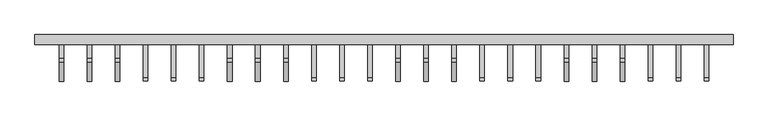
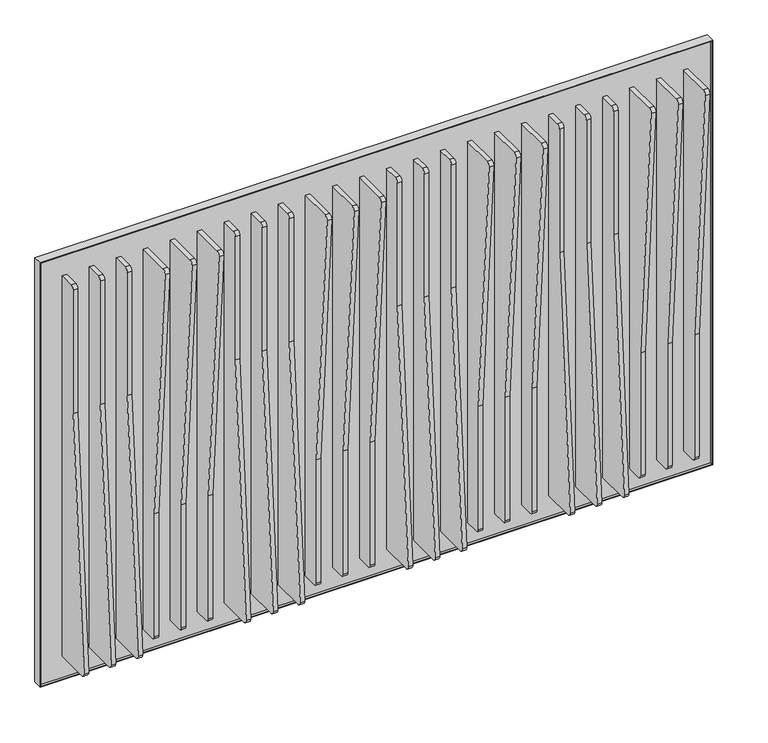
"""IFC4 building model written with IfcOpenShell, lengths in millimetres: proxy geometry, Frames_Plungle 1.3dm."""

import ifcopenshell
import ifcopenshell.guid

model = None  # the IFC model being written
_history = None  # IfcOwnerHistory: only IFC2X3 demands one
_inside = {}  # id of a spatial element -> (the spatial element, [elements in it])
_under = {}  # id of a project, library or spatial element -> (it, [spatial elements below it])
_declared = {}  # id of a project -> (the project, [libraries it declares])
_typed = {}  # id of a type object -> (the type object, [elements of that type])
_made_of = {}  # id of a material, layer set ... -> (it, [elements and type objects made of it])


def new_model(schema):
    """Start an empty IFC model of exactly this schema.

    Asked for "IFC4X3", IfcOpenShell would pick the latest addendum, in which some entities
    have other attributes; the version numbers below select the first issue.
    IFC2X3 requires an IfcOwnerHistory on every rooted entity: one is made here for all.
    """
    global model, _history
    if schema == "IFC4X3":
        model = ifcopenshell.file(schema_version=(4, 3, 0, 0))
    else:
        model = ifcopenshell.file(schema=schema)
    _inside.clear()
    _under.clear()
    _declared.clear()
    _typed.clear()
    _made_of.clear()
    _history = None
    if model.schema == "IFC2X3":
        org = make("IfcOrganization", Name="unknown")
        user = make(
            "IfcPersonAndOrganization",
            ThePerson=make("IfcPerson", FamilyName="unknown"),
            TheOrganization=org,
        )
        app = make(
            "IfcApplication",
            ApplicationDeveloper=org,
            Version="unknown",
            ApplicationFullName="unknown",
            ApplicationIdentifier="unknown",
        )
        _history = make(
            "IfcOwnerHistory",
            OwningUser=user,
            OwningApplication=app,
            ChangeAction="ADDED",
            CreationDate=0,
        )
    return model


def make(cls, **values):
    """One entity of the class cls with the attributes given. An attribute that is None is left unset."""
    return model.create_entity(
        cls, **{name: value for name, value in values.items() if value is not None}
    )


def rooted(cls, **values):
    """An entity with a GlobalId (a new one), such as an element, a storey or a relation."""
    return make(cls, GlobalId=ifcopenshell.guid.new(), OwnerHistory=_history, **values)


def si_unit(unit_type, name, prefix=None):
    """IfcSIUnit, for example si_unit("LENGTHUNIT", "METRE", prefix="MILLI")."""
    return make("IfcSIUnit", UnitType=unit_type, Prefix=prefix, Name=name)


def assignment(units):
    """IfcUnitAssignment: the units of a project."""
    return None if units is None else make("IfcUnitAssignment", Units=units)


def point(xyz):
    """IfcCartesianPoint."""
    return None if xyz is None else make("IfcCartesianPoint", Coordinates=xyz)


def direction(xyz):
    """IfcDirection."""
    return None if xyz is None else make("IfcDirection", DirectionRatios=xyz)


def frame(location, z_axis=None, x_axis=None):
    """IfcAxis2Placement3D, a coordinate frame: its origin and axes. An axis left out is left unset."""
    return make(
        "IfcAxis2Placement3D",
        Location=point(location),
        Axis=direction(z_axis),
        RefDirection=direction(x_axis),
    )


def frame_2d(location, x_axis=None):
    """IfcAxis2Placement2D, a coordinate frame in the plane: its origin and x axis."""
    return make(
        "IfcAxis2Placement2D", Location=point(location), RefDirection=direction(x_axis)
    )


def origin():
    """The frame at (0, 0, 0) with its axes left unset."""
    return frame((0.0, 0.0, 0.0))


def place(relative_to, where):
    """IfcLocalPlacement: puts the frame where relative to a parent placement (None: the world)."""
    return make(
        "IfcLocalPlacement", PlacementRelTo=relative_to, RelativePlacement=where
    )


def context(
    kind, dimensions, precision=None, world=None, true_north=None, identifier=None
):
    """IfcGeometricRepresentationContext, for example the 3D "Model" context."""
    return make(
        "IfcGeometricRepresentationContext",
        ContextIdentifier=identifier,
        ContextType=kind,
        CoordinateSpaceDimension=dimensions,
        Precision=precision,
        WorldCoordinateSystem=world,
        TrueNorth=true_north,
    )


def project(units=None, contexts=None):
    """IfcProject with its units and contexts."""
    return rooted(
        "IfcProject",
        Name="project",
        RepresentationContexts=contexts,
        UnitsInContext=assignment(units),
    )


def spatial(cls, under=None, at=None, **own):
    """A site, building, storey or space (cls), placed at a placement, below another one or the project."""
    s = rooted(cls, ObjectPlacement=at, **own)
    if under is not None:
        _under.setdefault(under.id(), (under, []))[1].append(s)
    return s


def polyline(points):
    """IfcPolyline through the points."""
    return make("IfcPolyline", Points=[point(p) for p in points])


def circle_curve(where, radius):
    """IfcCircle in the frame where."""
    return make("IfcCircle", Position=where, Radius=radius)


def trimmed(basis, trim1, trim2, sense, master):
    """IfcTrimmedCurve: the piece of a basis curve between two trims."""
    return make(
        "IfcTrimmedCurve",
        BasisCurve=basis,
        Trim1=trim1,
        Trim2=trim2,
        SenseAgreement=sense,
        MasterRepresentation=master,
    )


def segment(curve, same_sense, transition):
    """IfcCompositeCurveSegment."""
    return make(
        "IfcCompositeCurveSegment",
        Transition=transition,
        SameSense=same_sense,
        ParentCurve=curve,
    )


def composite_curve(segments, self_intersect=None):
    """IfcCompositeCurve: segments joined end to end."""
    return make("IfcCompositeCurve", Segments=segments, SelfIntersect=self_intersect)


def outline(outer, holes=None, kind="AREA"):
    """IfcArbitraryClosedProfileDef: a profile drawn as a closed curve; with holes, ...WithVoids."""
    if holes is None:
        return make("IfcArbitraryClosedProfileDef", ProfileType=kind, OuterCurve=outer)
    return make(
        "IfcArbitraryProfileDefWithVoids",
        ProfileType=kind,
        OuterCurve=outer,
        InnerCurves=holes,
    )


def extrude(swept, where, along, depth):
    """IfcExtrudedAreaSolid: the profile swept, set in the frame where, extruded along a direction by depth."""
    return make(
        "IfcExtrudedAreaSolid",
        SweptArea=swept,
        Position=where,
        ExtrudedDirection=direction(along),
        Depth=depth,
    )


def shape(context_of_items, identifier, shape_type, items):
    """IfcShapeRepresentation: the items that make up one representation, for example the "Body"."""
    return make(
        "IfcShapeRepresentation",
        ContextOfItems=context_of_items,
        RepresentationIdentifier=identifier,
        RepresentationType=shape_type,
        Items=items,
    )


def source(mapping_origin, context_of_items, identifier, shape_type, items):
    """IfcRepresentationMap: a shape defined once, which mapped items show again and again."""
    return make(
        "IfcRepresentationMap",
        MappingOrigin=mapping_origin,
        MappedRepresentation=shape(context_of_items, identifier, shape_type, items),
    )


def transform(
    local_origin,
    x_axis=None,
    y_axis=None,
    z_axis=None,
    scale=None,
    scale2=None,
    scale3=None,
    uniform=True,
):
    """IfcCartesianTransformationOperator3D, or its non-uniform kind. x_axis, y_axis, z_axis: its Axis1, 2, 3."""
    if uniform:
        return make(
            "IfcCartesianTransformationOperator3D",
            Axis1=direction(x_axis),
            Axis2=direction(y_axis),
            LocalOrigin=point(local_origin),
            Scale=scale,
            Axis3=direction(z_axis),
        )
    return make(
        "IfcCartesianTransformationOperator3DnonUniform",
        Axis1=direction(x_axis),
        Axis2=direction(y_axis),
        LocalOrigin=point(local_origin),
        Scale=scale,
        Axis3=direction(z_axis),
        Scale2=scale2,
        Scale3=scale3,
    )


def mapped(mapping_source, mapping_target):
    """IfcMappedItem: shows the shape of a source again, moved by a transform."""
    return make(
        "IfcMappedItem", MappingSource=mapping_source, MappingTarget=mapping_target
    )


def made_of(thing, what):
    """Note that an element or type object is made of a material, layer set ...; save() writes the relation."""
    if what is not None:
        _made_of.setdefault(what.id(), (what, []))[1].append(thing)
    return thing


def element(
    cls,
    number,
    at=None,
    inside=None,
    cuts=None,
    type_object=None,
    material=None,
    context=None,
    identifier="Body",
    shape_type=None,
    held_by="IfcProductDefinitionShape",
    body=None,
    shapes=None,
    **own,
):
    """One element of the class cls, such as IfcWall. Its Tag is "e" and its number.

    at: its placement. inside: the storey or other place that contains it. cuts: it is an
    opening in that element (IfcRelVoidsElement). A single representation is given by context,
    identifier, shape_type and body (its items); several are given by shapes. held_by: the class
    of the entity that holds the representations. save() writes the other relations.
    """
    e = rooted(cls, Tag="e%d" % number, ObjectPlacement=at, **own)
    if body is not None:
        shapes = [shape(context, identifier, shape_type, body)]
    if shapes is not None:
        e.Representation = make(held_by, Representations=shapes)
    if inside is not None:
        _inside.setdefault(inside.id(), (inside, []))[1].append(e)
    if cuts is not None:
        rooted(
            "IfcRelVoidsElement", RelatingBuildingElement=cuts, RelatedOpeningElement=e
        )
    if type_object is not None:
        _typed.setdefault(type_object.id(), (type_object, []))[1].append(e)
    return made_of(e, material)


def aggregate(whole, parts):
    """IfcRelAggregates: a whole, such as a stair, and the parts it consists of."""
    return rooted("IfcRelAggregates", RelatingObject=whole, RelatedObjects=parts)


def save(model, path):
    """Write the relations noted so far, then the file.

    IfcRelAggregates (storeys below a building ...), IfcRelContainedInSpatialStructure (elements
    in a storey), IfcRelDefinesByType, IfcRelAssociatesMaterial and IfcRelDeclares: one each for
    every whole, place, type object, material and project.
    """
    for whole, parts in _under.values():
        aggregate(whole, parts)
    for where, things in _inside.values():
        rooted(
            "IfcRelContainedInSpatialStructure",
            RelatedElements=things,
            RelatingStructure=where,
        )
    for kind, things in _typed.values():
        rooted("IfcRelDefinesByType", RelatedObjects=things, RelatingType=kind)
    for what, things in _made_of.values():
        rooted("IfcRelAssociatesMaterial", RelatedObjects=things, RelatingMaterial=what)
    for by, libraries in _declared.values():
        rooted("IfcRelDeclares", RelatingContext=by, RelatedDefinitions=libraries)
    model.write(path)


def generic_models_47d1e525(model_context):
    return source(origin(), model_context, "Body", "SweptSolid", [
        extrude(outline(composite_curve([segment(polyline([(109.527821, 1508.9563418), (151.027821, 1508.9563418), (151.027821, 429.9153082), (59.4589073, 429.9153082)]), True, "CONTINUOUS"), segment(trimmed(circle_curve(frame_2d((59.4589073, 439.9153082)), 10.0), [point((59.4589073, 429.9153082))], [point((49.4837491, 440.6197365))], False, "CARTESIAN"), True, "CONTINUOUS"), segment(polyline([(49.4837491, 440.6197365), (99.527821, 1149.2759973), (99.527821, 1498.9563418)]), True, "CONTINUOUS"), segment(trimmed(circle_curve(frame_2d((109.527821, 1498.9563418)), 10.0), [point((99.527821, 1498.9563418))], [point((109.527821, 1508.9563418))], False, "CARTESIAN"), True, "CONTINUOUS")], self_intersect=False)), frame((10413.8279383, 0.0, 0.0), z_axis=(1.0, 0.0, 0.0), x_axis=(0.0, 1.0, 0.0)), (0.0, 0.0, 1.0), 12.0),
        extrude(outline(composite_curve([segment(polyline([(109.527821, 1508.9563418), (151.027821, 1508.9563418), (151.027821, 429.9153082), (59.4589073, 429.9153082)]), True, "CONTINUOUS"), segment(trimmed(circle_curve(frame_2d((59.4589073, 439.9153082)), 10.0), [point((59.4589073, 429.9153082))], [point((49.4837491, 440.6197365))], False, "CARTESIAN"), True, "CONTINUOUS"), segment(polyline([(49.4837491, 440.6197365), (99.527821, 1149.2759973), (99.527821, 1498.9563418)]), True, "CONTINUOUS"), segment(trimmed(circle_curve(frame_2d((109.527821, 1498.9563418)), 10.0), [point((99.527821, 1498.9563418))], [point((109.527821, 1508.9563418))], False, "CARTESIAN"), True, "CONTINUOUS")], self_intersect=False)), frame((10341.3479383, 0.0, 0.0), z_axis=(1.0, 0.0, 0.0), x_axis=(0.0, 1.0, 0.0)), (0.0, 0.0, 1.0), 12.0),
        extrude(outline(composite_curve([segment(polyline([(109.527821, 1508.9563418), (151.027821, 1508.9563418), (151.027821, 429.9153082), (59.4589073, 429.9153082)]), True, "CONTINUOUS"), segment(trimmed(circle_curve(frame_2d((59.4589073, 439.9153082)), 10.0), [point((59.4589073, 429.9153082))], [point((49.4837491, 440.6197365))], False, "CARTESIAN"), True, "CONTINUOUS"), segment(polyline([(49.4837491, 440.6197365), (99.527821, 1149.2759973), (99.527821, 1498.9563418)]), True, "CONTINUOUS"), segment(trimmed(circle_curve(frame_2d((109.527821, 1498.9563418)), 10.0), [point((99.527821, 1498.9563418))], [point((109.527821, 1508.9563418))], False, "CARTESIAN"), True, "CONTINUOUS")], self_intersect=False)), frame((10268.8679383, 0.0, 0.0), z_axis=(1.0, 0.0, 0.0), x_axis=(0.0, 1.0, 0.0)), (0.0, 0.0, 1.0), 12.0),
        extrude(outline(composite_curve([segment(polyline([(109.527821, 1508.9557996), (151.027821, 1508.9557996), (151.027821, 429.914766), (59.4589073, 429.914766)]), True, "CONTINUOUS"), segment(trimmed(circle_curve(frame_2d((59.4589073, 439.914766)), 10.0), [point((59.4589073, 429.914766))], [point((49.4837491, 440.6191943))], False, "CARTESIAN"), True, "CONTINUOUS"), segment(polyline([(49.4837491, 440.6191943), (99.527821, 1149.2754551), (99.527821, 1498.9557996)]), True, "CONTINUOUS"), segment(trimmed(circle_curve(frame_2d((109.527821, 1498.9557996)), 10.0), [point((99.527821, 1498.9557996))], [point((109.527821, 1508.9557996))], False, "CARTESIAN"), True, "CONTINUOUS")], self_intersect=False)), frame((9978.9523643, 0.0, 0.0), z_axis=(1.0, 0.0, 0.0), x_axis=(0.0, 1.0, 0.0)), (0.0, 0.0, 1.0), 12.0),
        extrude(outline(composite_curve([segment(polyline([(109.527821, 1508.9557996), (151.027821, 1508.9557996), (151.027821, 429.914766), (59.4589073, 429.914766)]), True, "CONTINUOUS"), segment(trimmed(circle_curve(frame_2d((59.4589073, 439.914766)), 10.0), [point((59.4589073, 429.914766))], [point((49.4837491, 440.6191943))], False, "CARTESIAN"), True, "CONTINUOUS"), segment(polyline([(49.4837491, 440.6191943), (99.527821, 1149.2754551), (99.527821, 1498.9557996)]), True, "CONTINUOUS"), segment(trimmed(circle_curve(frame_2d((109.527821, 1498.9557996)), 10.0), [point((99.527821, 1498.9557996))], [point((109.527821, 1508.9557996))], False, "CARTESIAN"), True, "CONTINUOUS")], self_intersect=False)), frame((9906.4723643, 0.0, 0.0), z_axis=(1.0, 0.0, 0.0), x_axis=(0.0, 1.0, 0.0)), (0.0, 0.0, 1.0), 12.0),
        extrude(outline(composite_curve([segment(polyline([(109.527821, 1508.9557996), (151.027821, 1508.9557996), (151.027821, 429.914766), (59.4589073, 429.914766)]), True, "CONTINUOUS"), segment(trimmed(circle_curve(frame_2d((59.4589073, 439.914766)), 10.0), [point((59.4589073, 429.914766))], [point((49.4837491, 440.6191943))], False, "CARTESIAN"), True, "CONTINUOUS"), segment(polyline([(49.4837491, 440.6191943), (99.527821, 1149.2754551), (99.527821, 1498.9557996)]), True, "CONTINUOUS"), segment(trimmed(circle_curve(frame_2d((109.527821, 1498.9557996)), 10.0), [point((99.527821, 1498.9557996))], [point((109.527821, 1508.9557996))], False, "CARTESIAN"), True, "CONTINUOUS")], self_intersect=False)), frame((9833.9923643, 0.0, 0.0), z_axis=(1.0, 0.0, 0.0), x_axis=(0.0, 1.0, 0.0)), (0.0, 0.0, 1.0), 12.0),
        extrude(outline(composite_curve([segment(polyline([(109.527821, 1508.9554296), (151.027821, 1508.9554296), (151.027821, 429.914396), (59.4589073, 429.914396)]), True, "CONTINUOUS"), segment(trimmed(circle_curve(frame_2d((59.4589073, 439.914396)), 10.0), [point((59.4589073, 429.914396))], [point((49.4837491, 440.6188243))], False, "CARTESIAN"), True, "CONTINUOUS"), segment(polyline([(49.4837491, 440.6188243), (99.527821, 1149.275085), (99.527821, 1498.9554296)]), True, "CONTINUOUS"), segment(trimmed(circle_curve(frame_2d((109.527821, 1498.9554296)), 10.0), [point((99.527821, 1498.9554296))], [point((109.527821, 1508.9554296))], False, "CARTESIAN"), True, "CONTINUOUS")], self_intersect=False)), frame((9544.0767903, 0.0, 0.0), z_axis=(1.0, 0.0, 0.0), x_axis=(0.0, 1.0, 0.0)), (0.0, 0.0, 1.0), 12.0),
        extrude(outline(composite_curve([segment(polyline([(109.527821, 1508.9554296), (151.027821, 1508.9554296), (151.027821, 429.914396), (59.4589073, 429.914396)]), True, "CONTINUOUS"), segment(trimmed(circle_curve(frame_2d((59.4589073, 439.914396)), 10.0), [point((59.4589073, 429.914396))], [point((49.4837491, 440.6188243))], False, "CARTESIAN"), True, "CONTINUOUS"), segment(polyline([(49.4837491, 440.6188243), (99.527821, 1149.275085), (99.527821, 1498.9554296)]), True, "CONTINUOUS"), segment(trimmed(circle_curve(frame_2d((109.527821, 1498.9554296)), 10.0), [point((99.527821, 1498.9554296))], [point((109.527821, 1508.9554296))], False, "CARTESIAN"), True, "CONTINUOUS")], self_intersect=False)), frame((9471.5967903, 0.0, 0.0), z_axis=(1.0, 0.0, 0.0), x_axis=(0.0, 1.0, 0.0)), (0.0, 0.0, 1.0), 12.0),
        extrude(outline(composite_curve([segment(polyline([(109.527821, 1508.9554296), (151.027821, 1508.9554296), (151.027821, 429.914396), (59.4589073, 429.914396)]), True, "CONTINUOUS"), segment(trimmed(circle_curve(frame_2d((59.4589073, 439.914396)), 10.0), [point((59.4589073, 429.914396))], [point((49.4837491, 440.6188243))], False, "CARTESIAN"), True, "CONTINUOUS"), segment(polyline([(49.4837491, 440.6188243), (99.527821, 1149.275085), (99.527821, 1498.9554296)]), True, "CONTINUOUS"), segment(trimmed(circle_curve(frame_2d((109.527821, 1498.9554296)), 10.0), [point((99.527821, 1498.9554296))], [point((109.527821, 1508.9554296))], False, "CARTESIAN"), True, "CONTINUOUS")], self_intersect=False)), frame((9399.1167903, 0.0, 0.0), z_axis=(1.0, 0.0, 0.0), x_axis=(0.0, 1.0, 0.0)), (0.0, 0.0, 1.0), 12.0),
        extrude(outline(composite_curve([segment(trimmed(circle_curve(frame_2d((109.527821, 439.9153292)), 10.0), [point((109.527821, 429.9153292))], [point((99.527821, 439.9153292))], False, "CARTESIAN"), True, "CONTINUOUS"), segment(polyline([(99.527821, 439.9153292), (99.527821, 789.5956738), (49.4837491, 1498.2519345)]), True, "CONTINUOUS"), segment(trimmed(circle_curve(frame_2d((59.4589073, 1498.9563628)), 10.0), [point((49.4837491, 1498.2519345))], [point((59.4589073, 1508.9563628))], False, "CARTESIAN"), True, "CONTINUOUS"), segment(polyline([(59.4589073, 1508.9563628), (151.027821, 1508.9563628), (151.027821, 429.9153292), (109.527821, 429.9153292)]), True, "CONTINUOUS")], self_intersect=False)), frame((10631.2654184, 0.0, 0.0), z_axis=(1.0, 0.0, 0.0), x_axis=(0.0, 1.0, 0.0)), (0.0, 0.0, 1.0), 12.0),
        extrude(outline(composite_curve([segment(trimmed(circle_curve(frame_2d((109.527821, 439.9153292)), 10.0), [point((109.527821, 429.9153292))], [point((99.527821, 439.9153292))], False, "CARTESIAN"), True, "CONTINUOUS"), segment(polyline([(99.527821, 439.9153292), (99.527821, 789.5956738), (49.4837491, 1498.2519345)]), True, "CONTINUOUS"), segment(trimmed(circle_curve(frame_2d((59.4589073, 1498.9563628)), 10.0), [point((49.4837491, 1498.2519345))], [point((59.4589073, 1508.9563628))], False, "CARTESIAN"), True, "CONTINUOUS"), segment(polyline([(59.4589073, 1508.9563628), (151.027821, 1508.9563628), (151.027821, 429.9153292), (109.527821, 429.9153292)]), True, "CONTINUOUS")], self_intersect=False)), frame((10558.7854184, 0.0, 0.0), z_axis=(1.0, 0.0, 0.0), x_axis=(0.0, 1.0, 0.0)), (0.0, 0.0, 1.0), 12.0),
        extrude(outline(composite_curve([segment(trimmed(circle_curve(frame_2d((109.527821, 439.9153292)), 10.0), [point((109.527821, 429.9153292))], [point((99.527821, 439.9153292))], False, "CARTESIAN"), True, "CONTINUOUS"), segment(polyline([(99.527821, 439.9153292), (99.527821, 789.5956738), (49.4837491, 1498.2519345)]), True, "CONTINUOUS"), segment(trimmed(circle_curve(frame_2d((59.4589073, 1498.9563628)), 10.0), [point((49.4837491, 1498.2519345))], [point((59.4589073, 1508.9563628))], False, "CARTESIAN"), True, "CONTINUOUS"), segment(polyline([(59.4589073, 1508.9563628), (151.027821, 1508.9563628), (151.027821, 429.9153292), (109.527821, 429.9153292)]), True, "CONTINUOUS")], self_intersect=False)), frame((10486.3054184, 0.0, 0.0), z_axis=(1.0, 0.0, 0.0), x_axis=(0.0, 1.0, 0.0)), (0.0, 0.0, 1.0), 12.0),
        extrude(outline(composite_curve([segment(trimmed(circle_curve(frame_2d((109.527821, 439.9149559)), 10.0), [point((109.527821, 429.9149559))], [point((99.527821, 439.9149559))], False, "CARTESIAN"), True, "CONTINUOUS"), segment(polyline([(99.527821, 439.9149559), (99.527821, 789.5953005), (49.4837491, 1498.2515612)]), True, "CONTINUOUS"), segment(trimmed(circle_curve(frame_2d((59.4589073, 1498.9559895)), 10.0), [point((49.4837491, 1498.2515612))], [point((59.4589073, 1508.9559895))], False, "CARTESIAN"), True, "CONTINUOUS"), segment(polyline([(59.4589073, 1508.9559895), (151.027821, 1508.9559895), (151.027821, 429.9149559), (109.527821, 429.9149559)]), True, "CONTINUOUS")], self_intersect=False)), frame((10196.3900159, 0.0, 0.0), z_axis=(1.0, 0.0, 0.0), x_axis=(0.0, 1.0, 0.0)), (0.0, 0.0, 1.0), 12.0),
        extrude(outline(composite_curve([segment(trimmed(circle_curve(frame_2d((109.527821, 439.9149559)), 10.0), [point((109.527821, 429.9149559))], [point((99.527821, 439.9149559))], False, "CARTESIAN"), True, "CONTINUOUS"), segment(polyline([(99.527821, 439.9149559), (99.527821, 789.5953005), (49.4837491, 1498.2515612)]), True, "CONTINUOUS"), segment(trimmed(circle_curve(frame_2d((59.4589073, 1498.9559895)), 10.0), [point((49.4837491, 1498.2515612))], [point((59.4589073, 1508.9559895))], False, "CARTESIAN"), True, "CONTINUOUS"), segment(polyline([(59.4589073, 1508.9559895), (151.027821, 1508.9559895), (151.027821, 429.9149559), (109.527821, 429.9149559)]), True, "CONTINUOUS")], self_intersect=False)), frame((10123.9100159, 0.0, 0.0), z_axis=(1.0, 0.0, 0.0), x_axis=(0.0, 1.0, 0.0)), (0.0, 0.0, 1.0), 12.0),
        extrude(outline(composite_curve([segment(trimmed(circle_curve(frame_2d((109.527821, 439.9149559)), 10.0), [point((109.527821, 429.9149559))], [point((99.527821, 439.9149559))], False, "CARTESIAN"), True, "CONTINUOUS"), segment(polyline([(99.527821, 439.9149559), (99.527821, 789.5953005), (49.4837491, 1498.2515612)]), True, "CONTINUOUS"), segment(trimmed(circle_curve(frame_2d((59.4589073, 1498.9559895)), 10.0), [point((49.4837491, 1498.2515612))], [point((59.4589073, 1508.9559895))], False, "CARTESIAN"), True, "CONTINUOUS"), segment(polyline([(59.4589073, 1508.9559895), (151.027821, 1508.9559895), (151.027821, 429.9149559), (109.527821, 429.9149559)]), True, "CONTINUOUS")], self_intersect=False)), frame((10051.4300159, 0.0, 0.0), z_axis=(1.0, 0.0, 0.0), x_axis=(0.0, 1.0, 0.0)), (0.0, 0.0, 1.0), 12.0),
        extrude(outline(composite_curve([segment(trimmed(circle_curve(frame_2d((109.527821, 439.9145826)), 10.0), [point((109.527821, 429.9145826))], [point((99.527821, 439.9145826))], False, "CARTESIAN"), True, "CONTINUOUS"), segment(polyline([(99.527821, 439.9145826), (99.527821, 789.5949272), (49.4837491, 1498.2511879)]), True, "CONTINUOUS"), segment(trimmed(circle_curve(frame_2d((59.4589073, 1498.9556162)), 10.0), [point((49.4837491, 1498.2511879))], [point((59.4589073, 1508.9556162))], False, "CARTESIAN"), True, "CONTINUOUS"), segment(polyline([(59.4589073, 1508.9556162), (151.027821, 1508.9556162), (151.027821, 429.9145826), (109.527821, 429.9145826)]), True, "CONTINUOUS")], self_intersect=False)), frame((9761.5146133, 0.0, 0.0), z_axis=(1.0, 0.0, 0.0), x_axis=(0.0, 1.0, 0.0)), (0.0, 0.0, 1.0), 12.0),
        extrude(outline(composite_curve([segment(trimmed(circle_curve(frame_2d((109.527821, 439.9145826)), 10.0), [point((109.527821, 429.9145826))], [point((99.527821, 439.9145826))], False, "CARTESIAN"), True, "CONTINUOUS"), segment(polyline([(99.527821, 439.9145826), (99.527821, 789.5949272), (49.4837491, 1498.2511879)]), True, "CONTINUOUS"), segment(trimmed(circle_curve(frame_2d((59.4589073, 1498.9556162)), 10.0), [point((49.4837491, 1498.2511879))], [point((59.4589073, 1508.9556162))], False, "CARTESIAN"), True, "CONTINUOUS"), segment(polyline([(59.4589073, 1508.9556162), (151.027821, 1508.9556162), (151.027821, 429.9145826), (109.527821, 429.9145826)]), True, "CONTINUOUS")], self_intersect=False)), frame((9689.0346133, 0.0, 0.0), z_axis=(1.0, 0.0, 0.0), x_axis=(0.0, 1.0, 0.0)), (0.0, 0.0, 1.0), 12.0),
        extrude(outline(composite_curve([segment(trimmed(circle_curve(frame_2d((109.527821, 439.9145826)), 10.0), [point((109.527821, 429.9145826))], [point((99.527821, 439.9145826))], False, "CARTESIAN"), True, "CONTINUOUS"), segment(polyline([(99.527821, 439.9145826), (99.527821, 789.5949272), (49.4837491, 1498.2511879)]), True, "CONTINUOUS"), segment(trimmed(circle_curve(frame_2d((59.4589073, 1498.9556162)), 10.0), [point((49.4837491, 1498.2511879))], [point((59.4589073, 1508.9556162))], False, "CARTESIAN"), True, "CONTINUOUS"), segment(polyline([(59.4589073, 1508.9556162), (151.027821, 1508.9556162), (151.027821, 429.9145826), (109.527821, 429.9145826)]), True, "CONTINUOUS")], self_intersect=False)), frame((9616.5546133, 0.0, 0.0), z_axis=(1.0, 0.0, 0.0), x_axis=(0.0, 1.0, 0.0)), (0.0, 0.0, 1.0), 12.0),
        extrude(outline(composite_curve([segment(trimmed(circle_curve(frame_2d((109.527821, 439.9142093)), 10.0), [point((109.527821, 429.9142093))], [point((99.527821, 439.9142093))], False, "CARTESIAN"), True, "CONTINUOUS"), segment(polyline([(99.527821, 439.9142093), (99.527821, 789.5945539), (49.4837491, 1498.2508146)]), True, "CONTINUOUS"), segment(trimmed(circle_curve(frame_2d((59.4589073, 1498.9552429)), 10.0), [point((49.4837491, 1498.2508146))], [point((59.4589073, 1508.9552429))], False, "CARTESIAN"), True, "CONTINUOUS"), segment(polyline([(59.4589073, 1508.9552429), (151.027821, 1508.9552429), (151.027821, 429.9142093), (109.527821, 429.9142093)]), True, "CONTINUOUS")], self_intersect=False)), frame((9326.6392108, 0.0, 0.0), z_axis=(1.0, 0.0, 0.0), x_axis=(0.0, 1.0, 0.0)), (0.0, 0.0, 1.0), 12.0),
        extrude(outline(composite_curve([segment(trimmed(circle_curve(frame_2d((109.527821, 439.9142093)), 10.0), [point((109.527821, 429.9142093))], [point((99.527821, 439.9142093))], False, "CARTESIAN"), True, "CONTINUOUS"), segment(polyline([(99.527821, 439.9142093), (99.527821, 789.5945539), (49.4837491, 1498.2508146)]), True, "CONTINUOUS"), segment(trimmed(circle_curve(frame_2d((59.4589073, 1498.9552429)), 10.0), [point((49.4837491, 1498.2508146))], [point((59.4589073, 1508.9552429))], False, "CARTESIAN"), True, "CONTINUOUS"), segment(polyline([(59.4589073, 1508.9552429), (151.027821, 1508.9552429), (151.027821, 429.9142093), (109.527821, 429.9142093)]), True, "CONTINUOUS")], self_intersect=False)), frame((9254.1592108, 0.0, 0.0), z_axis=(1.0, 0.0, 0.0), x_axis=(0.0, 1.0, 0.0)), (0.0, 0.0, 1.0), 12.0),
        extrude(outline(composite_curve([segment(trimmed(circle_curve(frame_2d((109.527821, 439.9142093)), 10.0), [point((109.527821, 429.9142093))], [point((99.527821, 439.9142093))], False, "CARTESIAN"), True, "CONTINUOUS"), segment(polyline([(99.527821, 439.9142093), (99.527821, 789.5945539), (49.4837491, 1498.2508146)]), True, "CONTINUOUS"), segment(trimmed(circle_curve(frame_2d((59.4589073, 1498.9552429)), 10.0), [point((49.4837491, 1498.2508146))], [point((59.4589073, 1508.9552429))], False, "CARTESIAN"), True, "CONTINUOUS"), segment(polyline([(59.4589073, 1508.9552429), (151.027821, 1508.9552429), (151.027821, 429.9142093), (109.527821, 429.9142093)]), True, "CONTINUOUS")], self_intersect=False)), frame((9181.6792108, 0.0, 0.0), z_axis=(1.0, 0.0, 0.0), x_axis=(0.0, 1.0, 0.0)), (0.0, 0.0, 1.0), 12.0),
        extrude(outline(composite_curve([segment(polyline([(109.527821, 1508.9550563), (151.027821, 1508.9550563), (151.027821, 429.9140227), (59.4589073, 429.9140227)]), True, "CONTINUOUS"), segment(trimmed(circle_curve(frame_2d((59.4589073, 439.9140227)), 10.0), [point((59.4589073, 429.9140227))], [point((49.4837491, 440.618451))], False, "CARTESIAN"), True, "CONTINUOUS"), segment(polyline([(49.4837491, 440.618451), (99.527821, 1149.2747118), (99.527821, 1498.9550563)]), True, "CONTINUOUS"), segment(trimmed(circle_curve(frame_2d((109.527821, 1498.9550563)), 10.0), [point((99.527821, 1498.9550563))], [point((109.527821, 1508.9550563))], False, "CARTESIAN"), True, "CONTINUOUS")], self_intersect=False)), frame((9109.2015095, 0.0, 0.0), z_axis=(1.0, 0.0, 0.0), x_axis=(0.0, 1.0, 0.0)), (0.0, 0.0, 1.0), 12.0),
        extrude(outline(composite_curve([segment(polyline([(109.527821, 1508.9550563), (151.027821, 1508.9550563), (151.027821, 429.9140227), (59.4589073, 429.9140227)]), True, "CONTINUOUS"), segment(trimmed(circle_curve(frame_2d((59.4589073, 439.9140227)), 10.0), [point((59.4589073, 429.9140227))], [point((49.4837491, 440.618451))], False, "CARTESIAN"), True, "CONTINUOUS"), segment(polyline([(49.4837491, 440.618451), (99.527821, 1149.2747118), (99.527821, 1498.9550563)]), True, "CONTINUOUS"), segment(trimmed(circle_curve(frame_2d((109.527821, 1498.9550563)), 10.0), [point((99.527821, 1498.9550563))], [point((109.527821, 1508.9550563))], False, "CARTESIAN"), True, "CONTINUOUS")], self_intersect=False)), frame((9036.7215095, 0.0, 0.0), z_axis=(1.0, 0.0, 0.0), x_axis=(0.0, 1.0, 0.0)), (0.0, 0.0, 1.0), 12.0),
        extrude(outline(composite_curve([segment(polyline([(109.527821, 1508.9550563), (151.027821, 1508.9550563), (151.027821, 429.9140227), (59.4589073, 429.9140227)]), True, "CONTINUOUS"), segment(trimmed(circle_curve(frame_2d((59.4589073, 439.9140227)), 10.0), [point((59.4589073, 429.9140227))], [point((49.4837491, 440.618451))], False, "CARTESIAN"), True, "CONTINUOUS"), segment(polyline([(49.4837491, 440.618451), (99.527821, 1149.2747118), (99.527821, 1498.9550563)]), True, "CONTINUOUS"), segment(trimmed(circle_curve(frame_2d((109.527821, 1498.9550563)), 10.0), [point((99.527821, 1498.9550563))], [point((109.527821, 1508.9550563))], False, "CARTESIAN"), True, "CONTINUOUS")], self_intersect=False)), frame((8964.2415095, 0.0, 0.0), z_axis=(1.0, 0.0, 0.0), x_axis=(0.0, 1.0, 0.0)), (0.0, 0.0, 1.0), 12.0),
        extrude(outline(polyline([(367.4346584, 10705.7527376), (1571.4346584, 10705.7527376), (1571.4346584, 8901.7527376), (367.4346584, 8901.7527376), (367.4346584, 10705.7527376)]), holes=[polyline([(369.4346584, 10703.7527376), (369.4346584, 8903.7527376), (1569.4346584, 8903.7527376), (1569.4346584, 10703.7527376), (369.4346584, 10703.7527376)])]), frame((0.0, 144.327821, 0.0), z_axis=(0.0, 1.0, 0.0), x_axis=(0.0, 0.0, 1.0)), (0.0, 0.0, 1.0), 25.4),
        extrude(outline(polyline([(10703.7527376, 151.027821), (8903.7527376, 151.027821), (8903.7527376, 163.027821), (10703.7527376, 163.027821), (10703.7527376, 151.027821)])), frame((0.0, 0.0, 369.4346584), z_axis=(0.0, 0.0, 1.0), x_axis=(1.0, 0.0, 0.0)), (0.0, 0.0, 1.0), 1200.0),
    ])


if __name__ == "__main__":
    model = new_model("IFC4")
    model_context = context("Model", 3, world=origin())
    ifc_project = project(units=[si_unit("LENGTHUNIT", "METRE", prefix="MILLI")], contexts=[model_context])
    site = spatial("IfcSite", under=ifc_project)
    building = spatial("IfcBuilding", under=site)
    placement = place(None, origin())
    generic_models_shape = generic_models_47d1e525(model_context)
    element("IfcBuildingElementProxy", 1, Name="Frames_Plungle 1.3dm", ObjectType="Frames_Plungle 1.3dm", at=placement, inside=building, context=model_context, shape_type="MappedRepresentation", body=[
        mapped(generic_models_shape, transform((0.0, 0.0, 0.0), x_axis=(1.0, 0.0, 0.0), y_axis=(0.0, 1.0, 0.0), z_axis=(0.0, 0.0, 1.0))),
    ])
    save(model, "model.ifc")
